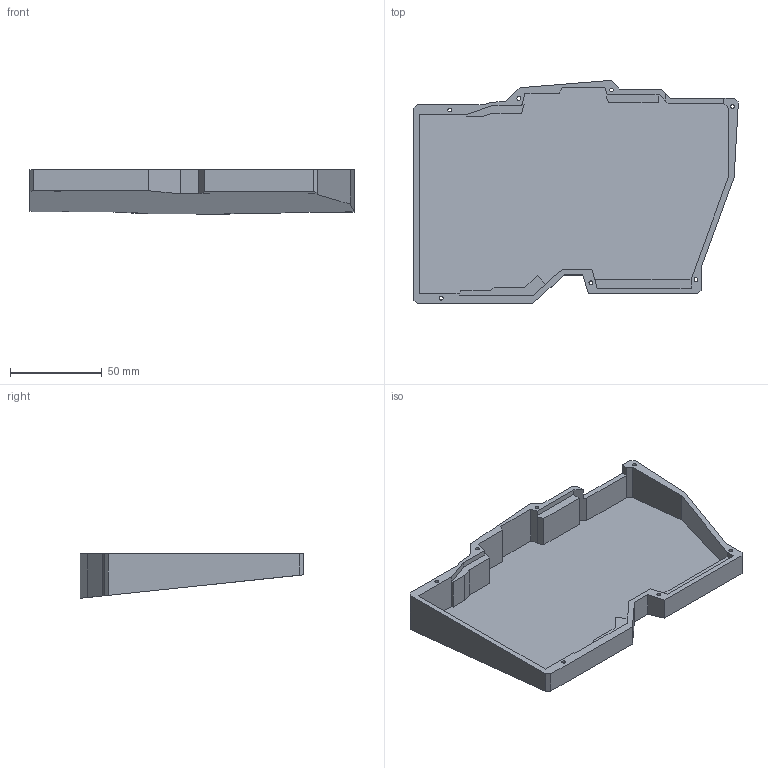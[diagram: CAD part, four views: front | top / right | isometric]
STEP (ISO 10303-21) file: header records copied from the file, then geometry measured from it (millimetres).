
FILE_DESCRIPTION(/* description */ (''),/* implementation_level */ '2;1');
FILE_NAME(/* name */ 'C:/Main_Storage/Keeb/Bot_case.step',/* time_stamp */ '2022-01-25T09:56:56-08:00',/* author */ (''),/* organization */ (''),/* preprocessor_version */ 'ST-DEVELOPER v18.1',/* originating_system */ 'Autodesk Translation Framework v10.13.0.1454',/* authorisation */ '');
FILE_SCHEMA (('AUTOMOTIVE_DESIGN { 1 0 10303 214 3 1 1 }'));
Length unit declared in the file: millimetre
Products named in the file (1): Bot_case
Bounding box: 177.06 x 121.89 x 24.31 mm (x, y, z)
Volume: 83693.9 mm3; surface area: 56694.1 mm2
Topology: 1 solids, 1 shells, 97 faces, 258 edges, 170 vertices
Faces by surface type: plane 83, cylinder 14
Full cylindrical faces by diameter (mm): 2.1 x7, 3.3 x7
Entity records: 3033 total; most frequent: CARTESIAN_POINT 526, ORIENTED_EDGE 516, DIRECTION 482, EDGE_CURVE 258, LINE 230, VECTOR 230, VERTEX_POINT 170, AXIS2_PLACEMENT_3D 126
